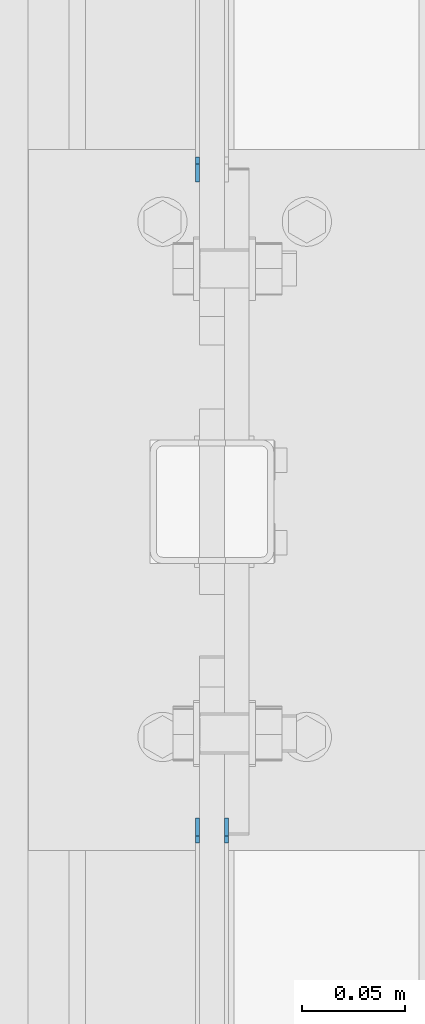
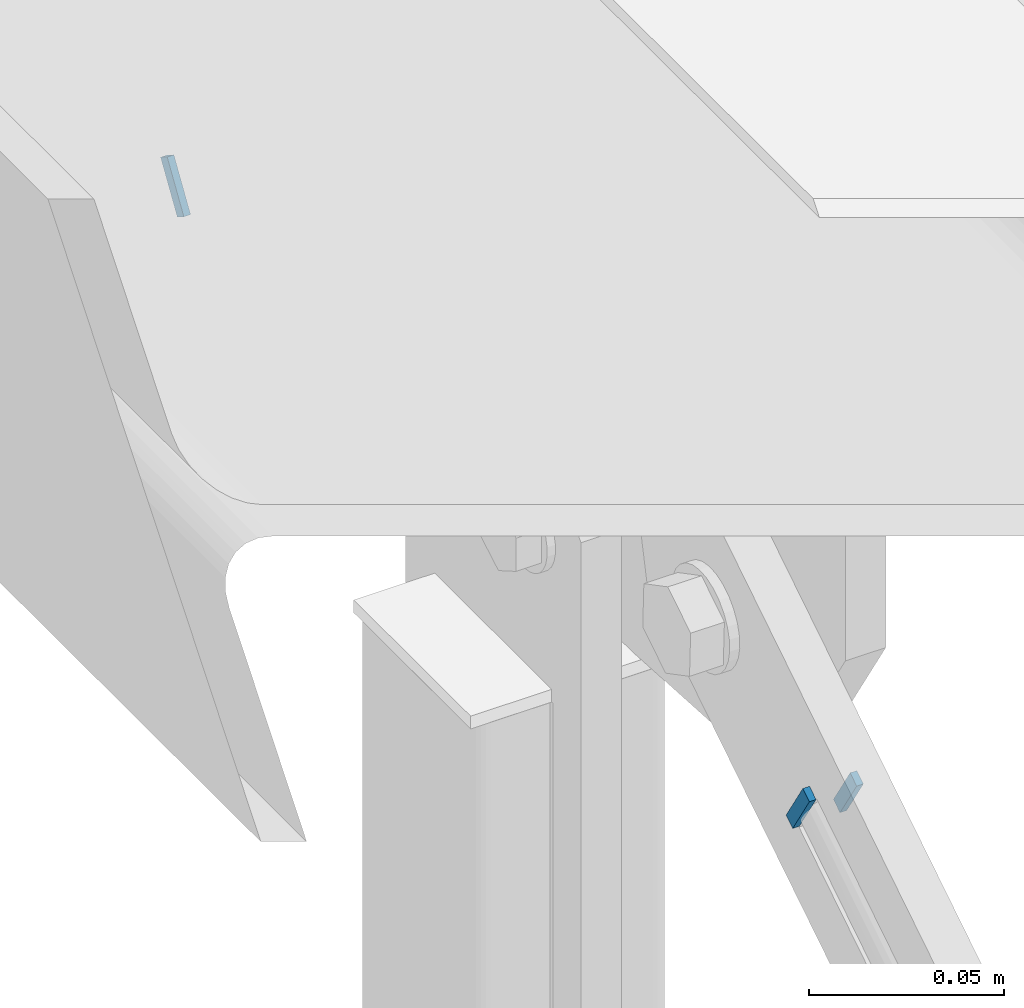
# One storey, part 210 of 271: 3 plates, 2 elements without a shape of their own.
"""IFC2X3 building model written with IfcOpenShell, lengths in millimetres."""

from ifc_helpers import new_model, si_unit, frame, origin_with_axes, place, context, subcontext, project, spatial, polyline, outline, extrude, material, type_object, element, aggregate, save


model = new_model("IFC2X3")

# Units and contexts
model_context = context("Model", 3, precision=1e-05, world=origin_with_axes())
body_context = subcontext(model_context, "Body", "Model", "MODEL_VIEW")
ifc_project = project(units=[si_unit("LENGTHUNIT", "METRE", prefix="MILLI"), si_unit("AREAUNIT", "SQUARE_METRE"), si_unit("VOLUMEUNIT", "CUBIC_METRE"), si_unit("MASSUNIT", "GRAM", prefix="KILO"), si_unit("TIMEUNIT", "SECOND"), si_unit("PLANEANGLEUNIT", "RADIAN"), si_unit("SOLIDANGLEUNIT", "STERADIAN"), si_unit("THERMODYNAMICTEMPERATUREUNIT", "DEGREE_CELSIUS"), si_unit("LUMINOUSINTENSITYUNIT", "LUMEN")], contexts=[model_context])

# Site, building, storey
site_placement = place(None, origin_with_axes())
site = spatial("IfcSite", under=ifc_project, at=site_placement, Name="Undefined", CompositionType="ELEMENT")
building_placement = place(site_placement, origin_with_axes())
building = spatial("IfcBuilding", under=site, at=building_placement, Name="Undefined", CompositionType="ELEMENT")
storey_placement = place(building_placement, origin_with_axes())
storey = spatial("IfcBuildingStorey", under=building, at=storey_placement, Name="Undefined", CompositionType="ELEMENT", Elevation=0.0)

# Assembly, plates
assembly_1_placement = place(storey_placement, origin_with_axes())
assembly_1 = element("IfcElementAssembly", 1, at=assembly_1_placement, inside=storey, AssemblyPlace="NOTDEFINED", PredefinedType="RIGID_FRAME")
ifc_material = material(Name="STEEL/S355JR")
plate_type = type_object("IfcPlateType", Name="BL4*2", PredefinedType="NOTDEFINED")
plate_1_placement = place(assembly_1_placement, frame((12591.7513748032, 2023.87623700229, 1255.49316405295), z_axis=(0.0, -0.844771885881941, -0.535126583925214), x_axis=(0.0, -0.535126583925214, 0.844771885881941)))
plate_1 = element("IfcPlate", 2, at=plate_1_placement, type_object=plate_type, material=ifc_material, Name="BLACHA", ObjectType="BL4*2", context=body_context, shape_type="SweptSolid", body=[
    extrude(outline(polyline([(0.0, 0.0), (15.9999980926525, -7.67386154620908e-13), (15.9999980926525, 1.99999964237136), (0.0, 1.99999964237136), (0.0, 0.0)])), frame((0.0, 0.0, -2.0), z_axis=(0.0, 0.0, 1.0), x_axis=(1.0, 0.0, 0.0)), (0.0, 0.0, 1.0), 4.0),
])
plate_2_placement = place(assembly_1_placement, frame((12605.751374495, 2023.87623700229, 1255.49316405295), z_axis=(0.0, -0.844771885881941, -0.535126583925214), x_axis=(0.0, -0.535126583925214, 0.844771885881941)))
plate_2 = element("IfcPlate", 3, at=plate_2_placement, type_object=plate_type, material=ifc_material, Name="BLACHA", ObjectType="BL4*2", context=body_context, shape_type="SweptSolid", body=[
    extrude(outline(polyline([(0.0, 0.0), (15.9999980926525, -7.67386154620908e-13), (15.9999980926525, 1.99999964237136), (0.0, 1.99999964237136), (0.0, 0.0)])), frame((0.0, 0.0, -2.0), z_axis=(0.0, 0.0, 1.0), x_axis=(1.0, 0.0, 0.0)), (0.0, 0.0, 1.0), 4.0),
])
aggregate(assembly_1, [plate_1, plate_2])

# Assembly, plate
assembly_2_placement = place(storey_placement, origin_with_axes())
assembly_2 = element("IfcElementAssembly", 4, at=assembly_2_placement, inside=storey, AssemblyPlace="NOTDEFINED", PredefinedType="RIGID_FRAME")
plate_3_placement = place(assembly_2_placement, frame((12591.7513748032, 2344.65152376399, 1269.00951553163), z_axis=(0.0, 0.84477188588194, -0.535126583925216), x_axis=(0.0, -0.535126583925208, -0.844771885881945)))
plate_3 = element("IfcPlate", 5, at=plate_3_placement, type_object=plate_type, material=ifc_material, Name="BLACHA", ObjectType="BL4*2", context=body_context, shape_type="SweptSolid", body=[
    extrude(outline(polyline([(0.0, 0.0), (15.9999980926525, -7.67386154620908e-13), (15.9999980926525, 1.99999964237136), (0.0, 1.99999964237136), (0.0, 0.0)])), frame((0.0, 0.0, -2.0), z_axis=(0.0, 0.0, 1.0), x_axis=(1.0, 0.0, 0.0)), (0.0, 0.0, 1.0), 4.0),
])
aggregate(assembly_2, [plate_3])

save(model, "model.ifc")
